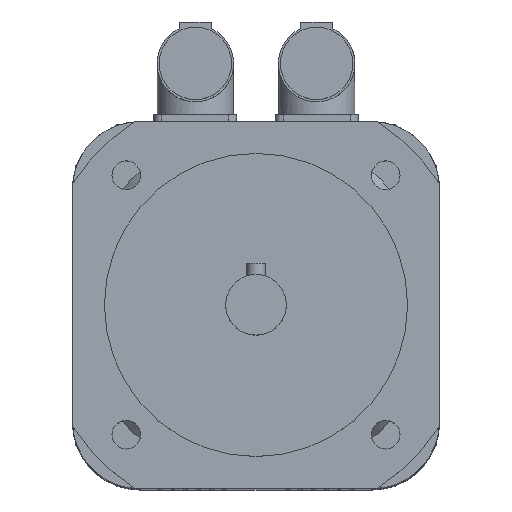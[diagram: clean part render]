
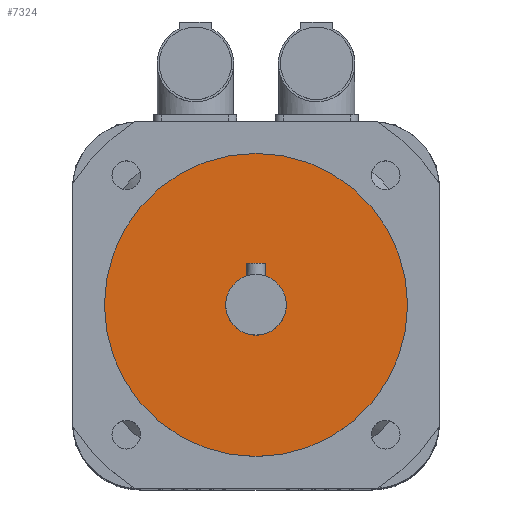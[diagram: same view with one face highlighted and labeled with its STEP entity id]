
A CAD part, top view. The second image highlights one B-rep face of the part: STEP entity #7324.
In plain terms, the highlighted planar face has unit normal (0, 0, 1).
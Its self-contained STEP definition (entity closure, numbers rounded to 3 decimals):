
#60=FACE_BOUND('',#993,.T.);
#151=CIRCLE('',#7810,9.5);
#152=CIRCLE('',#7812,47.5);
#524=FACE_OUTER_BOUND('',#992,.T.);
#992=EDGE_LOOP('',(#5019));
#993=EDGE_LOOP('',(#5020));
#3155=VERTEX_POINT('',#11148);
#3156=VERTEX_POINT('',#11151);
#3882=EDGE_CURVE('',#3155,#3155,#151,.T.);
#3883=EDGE_CURVE('',#3156,#3156,#152,.T.);
#5019=ORIENTED_EDGE('',*,*,#3883,.F.);
#5020=ORIENTED_EDGE('',*,*,#3882,.T.);
#6956=PLANE('',#7811);
#7324=ADVANCED_FACE('',(#524,#60),#6956,.T.);
#7810=AXIS2_PLACEMENT_3D('',#11149,#8756,#8757);
#7811=AXIS2_PLACEMENT_3D('',#11150,#8758,#8759);
#7812=AXIS2_PLACEMENT_3D('',#11152,#8760,#8761);
#8756=DIRECTION('center_axis',(0.,0.,-1.));
#8757=DIRECTION('ref_axis',(1.,0.,0.));
#8758=DIRECTION('center_axis',(0.,0.,1.));
#8759=DIRECTION('ref_axis',(1.,0.,0.));
#8760=DIRECTION('center_axis',(0.,0.,-1.));
#8761=DIRECTION('ref_axis',(1.,0.,0.));
#11148=CARTESIAN_POINT('',(0.,9.5,208.));
#11149=CARTESIAN_POINT('Origin',(0.,0.,208.));
#11150=CARTESIAN_POINT('Origin',(0.,47.5,208.));
#11151=CARTESIAN_POINT('',(0.,47.5,208.));
#11152=CARTESIAN_POINT('Origin',(0.,0.,208.));
